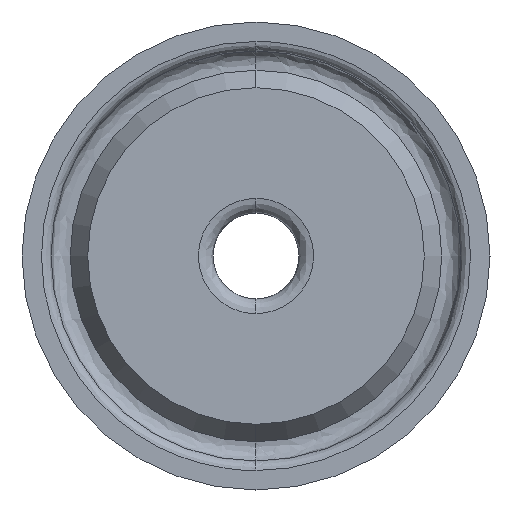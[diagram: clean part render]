
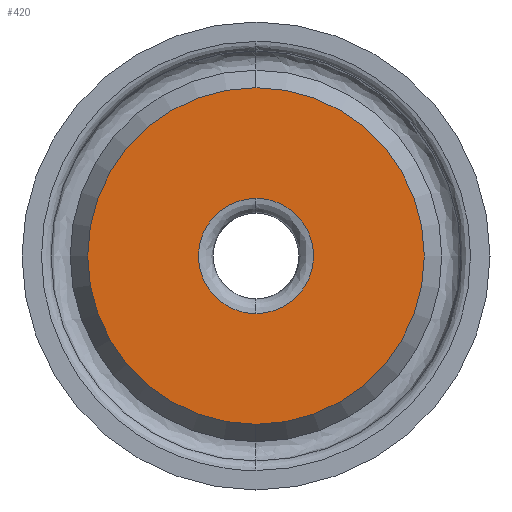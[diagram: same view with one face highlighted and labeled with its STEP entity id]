
A CAD part, left-side view. The second image highlights one B-rep face of the part: STEP entity #420.
In plain terms, the highlighted planar face has unit normal (-1, 0, 0).
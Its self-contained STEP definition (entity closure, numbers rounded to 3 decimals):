
#1 = CARTESIAN_POINT ( 'NONE',  ( 0.787, 0., -3.073 ) ) ;
#3 = EDGE_CURVE ( 'NONE', #779, #15, #459, .T. ) ;
#15 = VERTEX_POINT ( 'NONE', #771 ) ;
#85 = EDGE_CURVE ( 'NONE', #15, #779, #152, .T. ) ;
#95 = CARTESIAN_POINT ( 'NONE',  ( 0.787, 0., -3.073 ) ) ;
#113 = FACE_OUTER_BOUND ( 'NONE', #715, .T. ) ;
#127 = DIRECTION ( 'NONE',  ( 0., 0., -1. ) ) ;
#132 = CARTESIAN_POINT ( 'NONE',  ( 0.787, -6.147, -3.073 ) ) ;
#148 = CARTESIAN_POINT ( 'NONE',  ( 0.787, 6.147, -3.073 ) ) ;
#152 = CIRCLE ( 'NONE', #385, 8.987 ) ;
#158 = FACE_BOUND ( 'NONE', #237, .T. ) ;
#163 = CARTESIAN_POINT ( 'NONE',  ( 0.787, -6.147, 3.073 ) ) ;
#166 = CARTESIAN_POINT ( 'NONE',  ( 0.787, 0., 3.073 ) ) ;
#174 = CARTESIAN_POINT ( 'NONE',  ( 0.787, 6.147, 3.073 ) ) ;
#189 = CARTESIAN_POINT ( 'NONE',  ( 0.787, 0., 3.073 ) ) ;
#212 =( BOUNDED_CURVE ( )  B_SPLINE_CURVE ( 3, ( #189, #174, #148, #95 ),
 .UNSPECIFIED., .F., .F. ) 
 B_SPLINE_CURVE_WITH_KNOTS ( ( 4, 4 ),
 ( 0., 1. ),
 .UNSPECIFIED. ) 
 CURVE ( )  GEOMETRIC_REPRESENTATION_ITEM ( )  RATIONAL_B_SPLINE_CURVE ( ( 1., 0.333, 0.333, 1. ) ) 
 REPRESENTATION_ITEM ( '' )  );
#237 = EDGE_LOOP ( 'NONE', ( #432, #454 ) ) ;
#264 = EDGE_CURVE ( 'NONE', #572, #497, #212, .T. ) ;
#334 = PLANE ( 'NONE',  #442 ) ;
#338 = CARTESIAN_POINT ( 'NONE',  ( 0.787, 3.073, 0. ) ) ;
#351 = DIRECTION ( 'NONE',  ( 1., 0., 0. ) ) ;
#352 = CARTESIAN_POINT ( 'NONE',  ( 0.787, 0., 0. ) ) ;
#353 = DIRECTION ( 'NONE',  ( 0., 0., -1. ) ) ;
#385 = AXIS2_PLACEMENT_3D ( 'NONE', #728, #748, #751 ) ;
#420 = ADVANCED_FACE ( 'NONE', ( #113, #158 ), #334, .F. ) ;
#431 = ORIENTED_EDGE ( 'NONE', *, *, #85, .F. ) ;
#432 = ORIENTED_EDGE ( 'NONE', *, *, #786, .F. ) ;
#442 = AXIS2_PLACEMENT_3D ( 'NONE', #338, #351, #353 ) ;
#454 = ORIENTED_EDGE ( 'NONE', *, *, #264, .F. ) ;
#459 = CIRCLE ( 'NONE', #468, 8.987 ) ;
#468 = AXIS2_PLACEMENT_3D ( 'NONE', #352, #597, #127 ) ;
#477 = ORIENTED_EDGE ( 'NONE', *, *, #3, .F. ) ;
#497 = VERTEX_POINT ( 'NONE', #543 ) ;
#523 = CARTESIAN_POINT ( 'NONE',  ( 0.787, 0., -8.987 ) ) ;
#543 = CARTESIAN_POINT ( 'NONE',  ( 0.787, 0., -3.073 ) ) ;
#572 = VERTEX_POINT ( 'NONE', #673 ) ;
#597 = DIRECTION ( 'NONE',  ( 1., 0., 0. ) ) ;
#673 = CARTESIAN_POINT ( 'NONE',  ( 0.787, 0., 3.073 ) ) ;
#708 =( BOUNDED_CURVE ( )  B_SPLINE_CURVE ( 3, ( #1, #132, #163, #166 ),
 .UNSPECIFIED., .F., .F. ) 
 B_SPLINE_CURVE_WITH_KNOTS ( ( 4, 4 ),
 ( 0., 1. ),
 .UNSPECIFIED. ) 
 CURVE ( )  GEOMETRIC_REPRESENTATION_ITEM ( )  RATIONAL_B_SPLINE_CURVE ( ( 1., 0.333, 0.333, 1. ) ) 
 REPRESENTATION_ITEM ( '' )  );
#715 = EDGE_LOOP ( 'NONE', ( #477, #431 ) ) ;
#728 = CARTESIAN_POINT ( 'NONE',  ( 0.787, 0., 0. ) ) ;
#748 = DIRECTION ( 'NONE',  ( 1., 0., 0. ) ) ;
#751 = DIRECTION ( 'NONE',  ( 0., 0., -1. ) ) ;
#771 = CARTESIAN_POINT ( 'NONE',  ( 0.787, 0., 8.987 ) ) ;
#779 = VERTEX_POINT ( 'NONE', #523 ) ;
#786 = EDGE_CURVE ( 'NONE', #497, #572, #708, .T. ) ;
